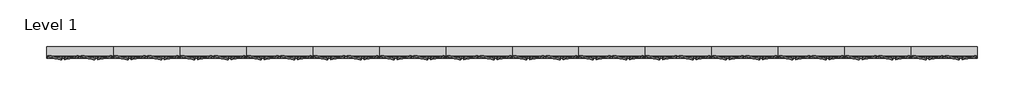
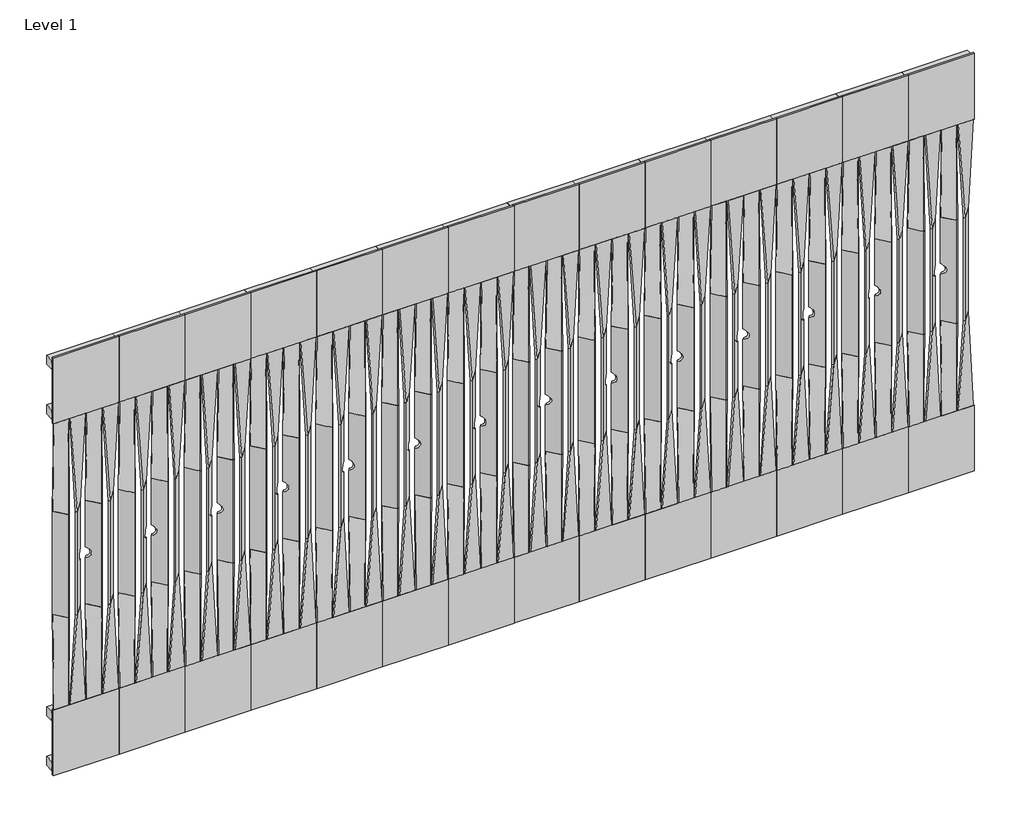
# One storey: 14 proxies.
"""IFC4 building model written with IfcOpenShell, lengths in millimetres."""

from ifc_helpers import new_model, si_unit, origin, place, context, project, spatial, transform, mapped, element, save
from components import twist_87c8a426

model = new_model("IFC4")

# Units and contexts
model_context = context("Model", 3, world=origin())
ifc_project = project(units=[si_unit("LENGTHUNIT", "METRE", prefix="MILLI")], contexts=[model_context])

# Site, building, storey
site = spatial("IfcSite", under=ifc_project)
building = spatial("IfcBuilding", under=site)
storey = spatial("IfcBuildingStorey", under=building, Name="Level 1", Elevation=0.0)

# Proxies
placement = place(None, origin())
twist_shape = twist_87c8a426(model_context)
element("IfcBuildingElementProxy", 1, Name="Spinneybeck_Twist : Twist", ObjectType="Spinneybeck_Twist : Twist", at=placement, inside=storey, context=model_context, shape_type="MappedRepresentation", body=[
    mapped(twist_shape, transform((-12813.4059591, 1316.9673714, 2076.0), x_axis=(0.0, 0.0, 1.0), y_axis=(-1.0, 0.0, 0.0), z_axis=(0.0, -1.0, 0.0))),
])
element("IfcBuildingElementProxy", 2, Name="Spinneybeck_Twist : Twist", ObjectType="Spinneybeck_Twist : Twist", at=placement, inside=storey, context=model_context, shape_type="MappedRepresentation", body=[
    mapped(twist_shape, transform((-12373.6684591, 1316.9673714, 2076.0), x_axis=(0.0, 0.0, 1.0), y_axis=(-1.0, 0.0, 0.0), z_axis=(0.0, -1.0, 0.0))),
])
element("IfcBuildingElementProxy", 3, Name="Spinneybeck_Twist : Twist", ObjectType="Spinneybeck_Twist : Twist", at=placement, inside=storey, context=model_context, shape_type="MappedRepresentation", body=[
    mapped(twist_shape, transform((-11933.9309591, 1316.9673714, 2076.0), x_axis=(0.0, 0.0, 1.0), y_axis=(-1.0, 0.0, 0.0), z_axis=(0.0, -1.0, 0.0))),
])
element("IfcBuildingElementProxy", 4, Name="Spinneybeck_Twist : Twist", ObjectType="Spinneybeck_Twist : Twist", at=placement, inside=storey, context=model_context, shape_type="MappedRepresentation", body=[
    mapped(twist_shape, transform((-11494.1934591, 1316.9673714, 2076.0), x_axis=(0.0, 0.0, 1.0), y_axis=(-1.0, 0.0, 0.0), z_axis=(0.0, -1.0, 0.0))),
])
element("IfcBuildingElementProxy", 5, Name="Spinneybeck_Twist : Twist", ObjectType="Spinneybeck_Twist : Twist", at=placement, inside=storey, context=model_context, shape_type="MappedRepresentation", body=[
    mapped(twist_shape, transform((-11054.4559591, 1316.9673714, 2076.0), x_axis=(0.0, 0.0, 1.0), y_axis=(-1.0, 0.0, 0.0), z_axis=(0.0, -1.0, 0.0))),
])
element("IfcBuildingElementProxy", 6, Name="Spinneybeck_Twist : Twist", ObjectType="Spinneybeck_Twist : Twist", at=placement, inside=storey, context=model_context, shape_type="MappedRepresentation", body=[
    mapped(twist_shape, transform((-10614.7184591, 1316.9673714, 2076.0), x_axis=(0.0, 0.0, 1.0), y_axis=(-1.0, 0.0, 0.0), z_axis=(0.0, -1.0, 0.0))),
])
element("IfcBuildingElementProxy", 7, Name="Spinneybeck_Twist : Twist", ObjectType="Spinneybeck_Twist : Twist", at=placement, inside=storey, context=model_context, shape_type="MappedRepresentation", body=[
    mapped(twist_shape, transform((-10174.9809591, 1316.9673714, 2076.0), x_axis=(0.0, 0.0, 1.0), y_axis=(-1.0, 0.0, 0.0), z_axis=(0.0, -1.0, 0.0))),
])
element("IfcBuildingElementProxy", 8, Name="Spinneybeck_Twist : Twist", ObjectType="Spinneybeck_Twist : Twist", at=placement, inside=storey, context=model_context, shape_type="MappedRepresentation", body=[
    mapped(twist_shape, transform((-9739.9122091, 1316.9673714, 2076.0), x_axis=(0.0, 0.0, 1.0), y_axis=(-1.0, 0.0, 0.0), z_axis=(0.0, -1.0, 0.0))),
])
element("IfcBuildingElementProxy", 9, Name="Spinneybeck_Twist : Twist", ObjectType="Spinneybeck_Twist : Twist", at=placement, inside=storey, context=model_context, shape_type="MappedRepresentation", body=[
    mapped(twist_shape, transform((-9300.1747091, 1316.9673714, 2076.0), x_axis=(0.0, 0.0, 1.0), y_axis=(-1.0, 0.0, 0.0), z_axis=(0.0, -1.0, 0.0))),
])
element("IfcBuildingElementProxy", 10, Name="Spinneybeck_Twist : Twist", ObjectType="Spinneybeck_Twist : Twist", at=placement, inside=storey, context=model_context, shape_type="MappedRepresentation", body=[
    mapped(twist_shape, transform((-8860.4372091, 1316.9673714, 2076.0), x_axis=(0.0, 0.0, 1.0), y_axis=(-1.0, 0.0, 0.0), z_axis=(0.0, -1.0, 0.0))),
])
element("IfcBuildingElementProxy", 11, Name="Spinneybeck_Twist : Twist", ObjectType="Spinneybeck_Twist : Twist", at=placement, inside=storey, context=model_context, shape_type="MappedRepresentation", body=[
    mapped(twist_shape, transform((-8420.6997091, 1316.9673714, 2076.0), x_axis=(0.0, 0.0, 1.0), y_axis=(-1.0, 0.0, 0.0), z_axis=(0.0, -1.0, 0.0))),
])
element("IfcBuildingElementProxy", 12, Name="Spinneybeck_Twist : Twist", ObjectType="Spinneybeck_Twist : Twist", at=placement, inside=storey, context=model_context, shape_type="MappedRepresentation", body=[
    mapped(twist_shape, transform((-7980.9622091, 1316.9673714, 2076.0), x_axis=(0.0, 0.0, 1.0), y_axis=(-1.0, 0.0, 0.0), z_axis=(0.0, -1.0, 0.0))),
])
element("IfcBuildingElementProxy", 13, Name="Spinneybeck_Twist : Twist", ObjectType="Spinneybeck_Twist : Twist", at=placement, inside=storey, context=model_context, shape_type="MappedRepresentation", body=[
    mapped(twist_shape, transform((-7541.2247091, 1316.9673714, 2076.0), x_axis=(0.0, 0.0, 1.0), y_axis=(-1.0, 0.0, 0.0), z_axis=(0.0, -1.0, 0.0))),
])
element("IfcBuildingElementProxy", 14, Name="Spinneybeck_Twist : Twist", ObjectType="Spinneybeck_Twist : Twist", at=placement, inside=storey, context=model_context, shape_type="MappedRepresentation", body=[
    mapped(twist_shape, transform((-7101.4872091, 1316.9673714, 2076.0), x_axis=(0.0, 0.0, 1.0), y_axis=(-1.0, 0.0, 0.0), z_axis=(0.0, -1.0, 0.0))),
])

save(model, "model.ifc")
